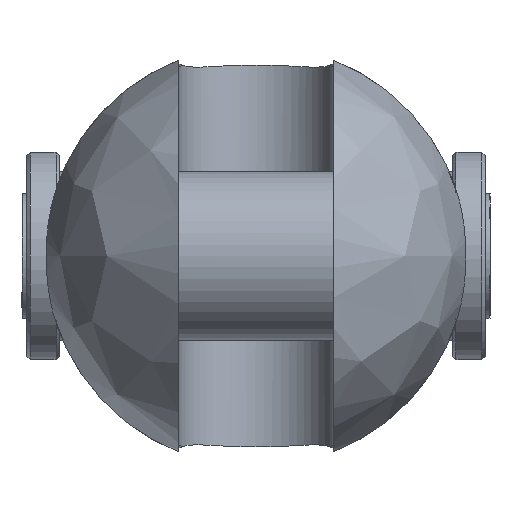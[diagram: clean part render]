
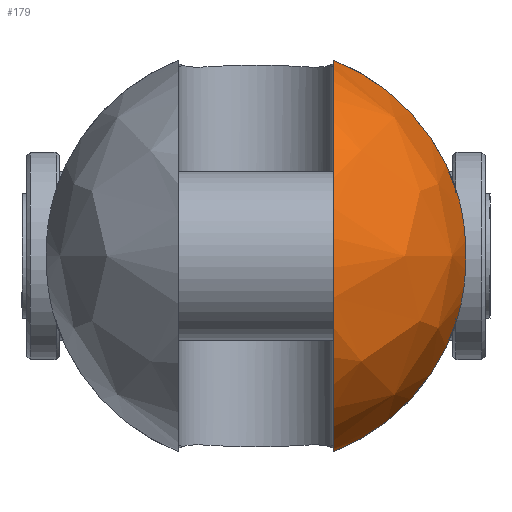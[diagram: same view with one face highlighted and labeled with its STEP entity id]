
A CAD part, left-side view. The second image highlights one B-rep face of the part: STEP entity #179.
In plain terms, the highlighted free-form (B-spline) face has degree [2, 2] with [9, 5] control points.
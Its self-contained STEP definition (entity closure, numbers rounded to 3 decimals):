
#179=ADVANCED_FACE('',(#320),#2412,.T.);
#320=FACE_OUTER_BOUND('',#481,.T.);
#481=EDGE_LOOP('',(#1192,#1193,#1194,#1195));
#1192=ORIENTED_EDGE('',*,*,#1574,.T.);
#1193=ORIENTED_EDGE('',*,*,#1599,.F.);
#1194=ORIENTED_EDGE('',*,*,#1616,.T.);
#1195=ORIENTED_EDGE('',*,*,#1592,.F.);
#1574=EDGE_CURVE('',#2244,#2243,#1979,.T.);
#1592=EDGE_CURVE('',#2244,#2256,#1989,.T.);
#1599=EDGE_CURVE('',#2263,#2243,#1990,.T.);
#1616=EDGE_CURVE('',#2263,#2256,#1785,.T.);
#1785=B_SPLINE_CURVE_WITH_KNOTS('',3,(#6061,#6062,#6063,#6064,#6065,#6066,
#6067,#6068,#6069,#6070,#6071,#6072,#6073,#6074),.UNSPECIFIED.,.F.,.F.,
(4,2,2,2,2,2,4),(-20.789,-19.15,-14.772,
-10.395,-6.017,-1.64,0.),.UNSPECIFIED.);
#1979=(
BOUNDED_CURVE()
B_SPLINE_CURVE(2,(#5886,#5887,#5888,#5889,#5890),.UNSPECIFIED.,.F.,.F.)
B_SPLINE_CURVE_WITH_KNOTS((3,2,3),(-94.887,-47.444,
0.),.UNSPECIFIED.)
CURVE()
GEOMETRIC_REPRESENTATION_ITEM()
RATIONAL_B_SPLINE_CURVE((1.,0.707,1.,0.707,1.))
REPRESENTATION_ITEM('')
);
#1989=(
BOUNDED_CURVE()
B_SPLINE_CURVE(2,(#5972,#5973,#5974),.UNSPECIFIED.,.F.,.F.)
B_SPLINE_CURVE_WITH_KNOTS((3,3),(0.,28.969),.UNSPECIFIED.)
CURVE()
GEOMETRIC_REPRESENTATION_ITEM()
RATIONAL_B_SPLINE_CURVE((1.,0.902,1.))
REPRESENTATION_ITEM('')
);
#1990=(
BOUNDED_CURVE()
B_SPLINE_CURVE(2,(#5995,#5996,#5997),.UNSPECIFIED.,.F.,.F.)
B_SPLINE_CURVE_WITH_KNOTS((3,3),(0.,28.969),.UNSPECIFIED.)
CURVE()
GEOMETRIC_REPRESENTATION_ITEM()
RATIONAL_B_SPLINE_CURVE((1.,0.902,1.))
REPRESENTATION_ITEM('')
);
#2243=VERTEX_POINT('',#5762);
#2244=VERTEX_POINT('',#5763);
#2256=VERTEX_POINT('',#5775);
#2263=VERTEX_POINT('',#5782);
#2412=(
BOUNDED_SURFACE()
B_SPLINE_SURFACE(2,2,((#5476,#5477,#5478,#5479,#5480),(#5481,#5482,#5483,
#5484,#5485),(#5486,#5487,#5488,#5489,#5490),(#5491,#5492,#5493,#5494,#5495),
(#5496,#5497,#5498,#5499,#5500),(#5501,#5502,#5503,#5504,#5505),(#5506,
#5507,#5508,#5509,#5510),(#5511,#5512,#5513,#5514,#5515),(#5516,#5517,#5518,
#5519,#5520)),.UNSPECIFIED.,.T.,.F.,.F.)
B_SPLINE_SURFACE_WITH_KNOTS((3,2,2,2,3),(3,2,3),(0.,51.051,102.102,
153.153,204.204),(0.,51.051,102.102),
 .UNSPECIFIED.)
GEOMETRIC_REPRESENTATION_ITEM()
RATIONAL_B_SPLINE_SURFACE(((1.,0.707,1.,0.707,1.),
(0.707,0.5,0.707,0.5,0.707),(1.,0.707,
1.,0.707,1.),(0.707,0.5,0.707,0.5,0.707),
(1.,0.707,1.,0.707,1.),(0.707,0.5,0.707,
0.5,0.707),(1.,0.707,1.,0.707,1.),(0.707,
0.5,0.707,0.5,0.707),(1.,0.707,1.,0.707,
1.)))
REPRESENTATION_ITEM('')
SURFACE()
);
#5476=CARTESIAN_POINT('',(-46.5,0.,0.));
#5477=CARTESIAN_POINT('',(-46.5,32.5,0.));
#5478=CARTESIAN_POINT('',(-14.,32.5,0.));
#5479=CARTESIAN_POINT('',(18.5,32.5,0.));
#5480=CARTESIAN_POINT('',(18.5,0.,0.));
#5481=CARTESIAN_POINT('',(-46.5,0.,0.));
#5482=CARTESIAN_POINT('',(-46.5,32.5,32.5));
#5483=CARTESIAN_POINT('',(-14.,32.5,32.5));
#5484=CARTESIAN_POINT('',(18.5,32.5,32.5));
#5485=CARTESIAN_POINT('',(18.5,0.,0.));
#5486=CARTESIAN_POINT('',(-46.5,0.,0.));
#5487=CARTESIAN_POINT('',(-46.5,0.,32.5));
#5488=CARTESIAN_POINT('',(-14.,0.,32.5));
#5489=CARTESIAN_POINT('',(18.5,0.,32.5));
#5490=CARTESIAN_POINT('',(18.5,0.,0.));
#5491=CARTESIAN_POINT('',(-46.5,0.,0.));
#5492=CARTESIAN_POINT('',(-46.5,-32.5,32.5));
#5493=CARTESIAN_POINT('',(-14.,-32.5,32.5));
#5494=CARTESIAN_POINT('',(18.5,-32.5,32.5));
#5495=CARTESIAN_POINT('',(18.5,0.,0.));
#5496=CARTESIAN_POINT('',(-46.5,0.,0.));
#5497=CARTESIAN_POINT('',(-46.5,-32.5,0.));
#5498=CARTESIAN_POINT('',(-14.,-32.5,0.));
#5499=CARTESIAN_POINT('',(18.5,-32.5,0.));
#5500=CARTESIAN_POINT('',(18.5,0.,0.));
#5501=CARTESIAN_POINT('',(-46.5,0.,0.));
#5502=CARTESIAN_POINT('',(-46.5,-32.5,-32.5));
#5503=CARTESIAN_POINT('',(-14.,-32.5,-32.5));
#5504=CARTESIAN_POINT('',(18.5,-32.5,-32.5));
#5505=CARTESIAN_POINT('',(18.5,0.,0.));
#5506=CARTESIAN_POINT('',(-46.5,0.,0.));
#5507=CARTESIAN_POINT('',(-46.5,0.,-32.5));
#5508=CARTESIAN_POINT('',(-14.,0.,-32.5));
#5509=CARTESIAN_POINT('',(18.5,0.,-32.5));
#5510=CARTESIAN_POINT('',(18.5,0.,0.));
#5511=CARTESIAN_POINT('',(-46.5,0.,0.));
#5512=CARTESIAN_POINT('',(-46.5,32.5,-32.5));
#5513=CARTESIAN_POINT('',(-14.,32.5,-32.5));
#5514=CARTESIAN_POINT('',(18.5,32.5,-32.5));
#5515=CARTESIAN_POINT('',(18.5,0.,0.));
#5516=CARTESIAN_POINT('',(-46.5,0.,0.));
#5517=CARTESIAN_POINT('',(-46.5,32.5,0.));
#5518=CARTESIAN_POINT('',(-14.,32.5,0.));
#5519=CARTESIAN_POINT('',(18.5,32.5,0.));
#5520=CARTESIAN_POINT('',(18.5,0.,0.));
#5762=CARTESIAN_POINT('',(-14.,-12.,-30.203));
#5763=CARTESIAN_POINT('',(-14.,-12.,30.203));
#5775=CARTESIAN_POINT('',(-14.,-31.036,9.644));
#5782=CARTESIAN_POINT('',(-14.,-31.036,-9.644));
#5886=CARTESIAN_POINT('',(-14.,-12.,30.203));
#5887=CARTESIAN_POINT('',(-44.203,-12.,30.203));
#5888=CARTESIAN_POINT('',(-44.203,-12.,0.));
#5889=CARTESIAN_POINT('',(-44.203,-12.,-30.203));
#5890=CARTESIAN_POINT('',(-14.,-12.,-30.203));
#5972=CARTESIAN_POINT('',(-14.,-12.,30.203));
#5973=CARTESIAN_POINT('',(-14.,-26.429,24.471));
#5974=CARTESIAN_POINT('',(-14.,-31.036,9.644));
#5995=CARTESIAN_POINT('',(-14.,-31.036,-9.644));
#5996=CARTESIAN_POINT('',(-14.,-26.429,-24.471));
#5997=CARTESIAN_POINT('',(-14.,-12.,-30.203));
#6061=CARTESIAN_POINT('',(-14.,-31.036,-9.644));
#6062=CARTESIAN_POINT('',(-14.303,-31.173,-9.204));
#6063=CARTESIAN_POINT('',(-14.587,-31.3,-8.747));
#6064=CARTESIAN_POINT('',(-15.548,-31.728,-7.023));
#6065=CARTESIAN_POINT('',(-16.093,-31.967,-5.667));
#6066=CARTESIAN_POINT('',(-16.819,-32.283,-2.867));
#6067=CARTESIAN_POINT('',(-17.,-32.361,-1.423));
#6068=CARTESIAN_POINT('',(-17.,-32.361,1.423));
#6069=CARTESIAN_POINT('',(-16.819,-32.283,2.867));
#6070=CARTESIAN_POINT('',(-16.093,-31.967,5.667));
#6071=CARTESIAN_POINT('',(-15.548,-31.728,7.023));
#6072=CARTESIAN_POINT('',(-14.587,-31.3,8.747));
#6073=CARTESIAN_POINT('',(-14.303,-31.173,9.204));
#6074=CARTESIAN_POINT('',(-14.,-31.036,9.644));
